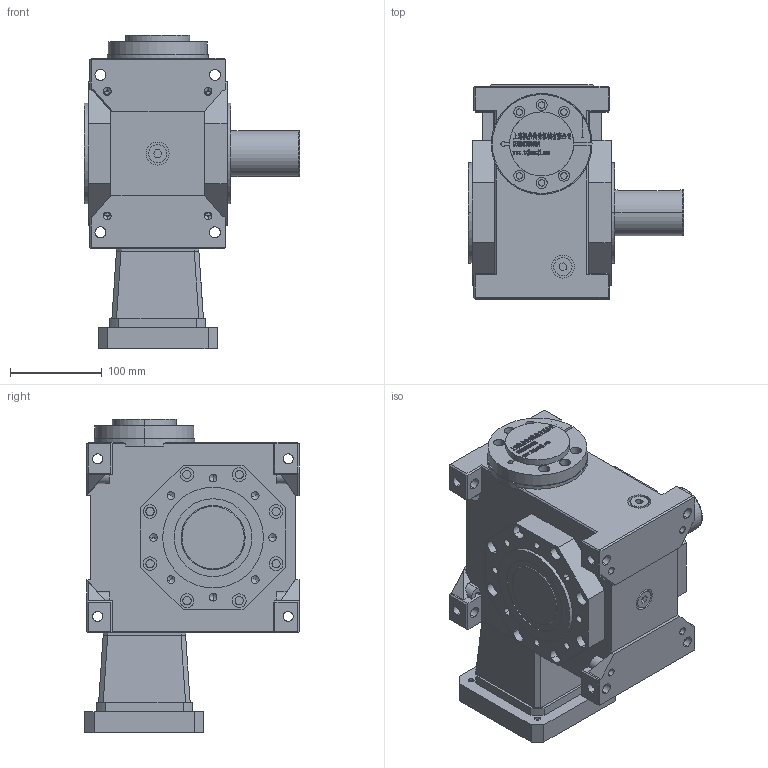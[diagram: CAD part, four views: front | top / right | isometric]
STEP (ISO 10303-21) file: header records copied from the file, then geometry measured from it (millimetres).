
FILE_DESCRIPTION (( 'STEP AP203' ), '1' );
FILE_NAME ('FXLB075-(5~90)-ASR-22-110-145-M8.step', '2022-11-06T06:43:33', ( '' ), ( '' ), 'SwSTEP 2.0', 'SolidWorks 2020', '' );
FILE_SCHEMA (( 'CONFIG_CONTROL_DESIGN' ));
Length unit declared in the file: millimetre
Products named in the file (8): JDLB075-ST105________1.step; 錨璃321^FXLB075-(5~90)-ASR-22-110-145-M8; JDLB075-ASR________50.step; ST130-110-145-M8____________.step; ______BD68-73.3-24-22____.step; JDLB075-CR____.step; FXLB075-(5~90)-ASR-22-110-145-M8; FXLB075-(5~90)-ASR-22-110-145-M8.step
Assembly tree (7 placements, depth 3):
  FXLB075-(5~90)-ASR-22-110-145-M8
    FXLB075-(5~90)-ASR-22-110-145-M8.step
      JDLB075-CR____.step
      JDLB075-ST105________1.step
      ST130-110-145-M8____________.step
      ______BD68-73.3-24-22____.step
      JDLB075-ASR________50.step
    錨璃321^FXLB075-(5~90)-ASR-22-110-145-M8
Bounding box: 235 x 234 x 342.2 mm (x, y, z)
Volume: 7243320.1 mm3; surface area: 594575.1 mm2
Topology: 82 solids, 82 shells, 2690 faces, 7035 edges, 4589 vertices
Faces by surface type: plane 1543, bspline 572, cylinder 453, cone 104, torus 18
Entity records: 113356 total; most frequent: CARTESIAN_POINT 49762, ORIENTED_EDGE 13946, DIRECTION 10969, EDGE_CURVE 6973, VECTOR 4751, LINE 4751, VERTEX_POINT 4589, AXIS2_PLACEMENT_3D 3109
